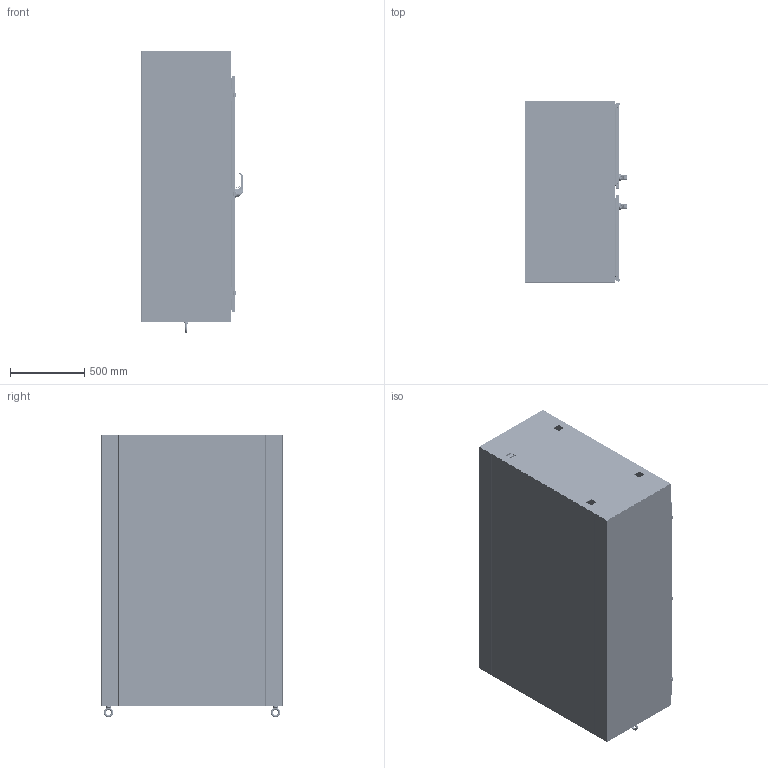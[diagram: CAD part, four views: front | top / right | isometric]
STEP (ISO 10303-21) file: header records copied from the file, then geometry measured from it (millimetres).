
FILE_DESCRIPTION((''),'2;1');
FILE_NAME('MODEL-248_ASM','2025-08-28T08:55:15',('richards'),('SAGINAW CONTROL & ENGINEERING'),'CREO PARAMETRIC BY PTC INC, 2021284','CREO PARAMETRIC BY PTC INC, 2021284','');
FILE_SCHEMA(('AUTOMOTIVE_DESIGN { 1 0 10303 214 1 1 1 1 }'));
Length unit declared in the file: inch
Products named in the file (80): MODEL-248-L-SD; MODEL-248-TP; MODEL-248-R-SD; MODEL-248-BTM; MODEL-248-BCK; MODEL-248-RH-DR; 100837; 111267; 100882; 100955_SCREW_MTG; 100955_PADLOCK_CATCH; 100955_SCREW_LARGE; 100955_INSERT_SHAFT; 100955_INSERT_PKH; 100955_GASKET; 100955_O-RING; 100955_BASE; 100955_SPRING; 100955_HANDLE; 100955_CAM_SHAFT; 100955_HANDLE_ASM; 100955_CAM_ADAPTER; 100955_EARTH_NUT; 100955_FLANGE_NUT; 100955_CAM_NUT; 100955_KEY_INSERT; 100955_SPRING_CAM; 100955_TORSION_SPRING; 100955_SCREW_INSERT; 100955_ASM; 102236; 100030; 102236_ASM; MODEL-248-ROD-UPR-RH; 128146; 128145; 128144; 102482; MODEL-248-ROD-UPR-RH_ASM; 128143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
Assembly tree (186 placements, depth 5):
  MODEL-248_ASM
    MODEL-248-L-SD
    MODEL-248-TP
    MODEL-248-R-SD
    MODEL-248-BTM
    MODEL-248-BCK
    MODEL-248-RH-DOOR-ASSY_ASM
      MODEL-248-RH-DR
      100837  x5
      111267
      100882  x10
      100955_ASM
        100955_SCREW_MTG
        100955_PADLOCK_CATCH
        100955_SCREW_LARGE  x2
        100955_INSERT_SHAFT
        100955_INSERT_PKH
        100955_GASKET
        100955_O-RING
        100955_BASE
        100955_SPRING
        100955_HANDLE_ASM
          100955_HANDLE
          100955_CAM_SHAFT
        100955_CAM_ADAPTER
        100955_EARTH_NUT
        100955_FLANGE_NUT
        100955_CAM_NUT
        100955_KEY_INSERT
        100955_SPRING_CAM
        100955_TORSION_SPRING
        100955_SCREW_INSERT
      102236_ASM
        102236
        100030  x2
      MODEL-248-ROD-UPR-RH_ASM
        MODEL-248-ROD-UPR-RH
        128146
        128145
        128144
        102482  x2
      128143  x2
      112504  x2
      MODEL-248-ROD-LWR-RH_ASM
        MODEL-248-ROD-LWR-RH
        128146
        128145
        128144
        102482  x2
      MODEL-248-PR-GSK-R
      128257_ASM  x3
        128257
      126393  x3
      102483  x3
      101369_ASM  x3
        101369
        101369-STUD
      101221  x3
    MODEL-248-LH-DOOR-ASSY_ASM
      MODEL-248-LH-DR
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Bounding box: 687.85 x 1219.2 x 1903.6 mm (x, y, z)
Volume: 27251516.3 mm3; surface area: 20231055.6 mm2
Topology: 228 solids, 228 shells, 22494 faces, 57298 edges, 35328 vertices
Faces by surface type: plane 7883, cylinder 6059, bspline 4968, torus 1590, cone 1306, sphere 572, extrusion 116
Entity records: 437384 total; most frequent: CARTESIAN_POINT 167128, ORIENTED_EDGE 40296, DIRECTION 37412, PRESENTATION_STYLE_ASSIGNMENT 21540, STYLED_ITEM 21535, CURVE_STYLE 20148, EDGE_CURVE 20148, AXIS2_PLACEMENT_3D 13934
